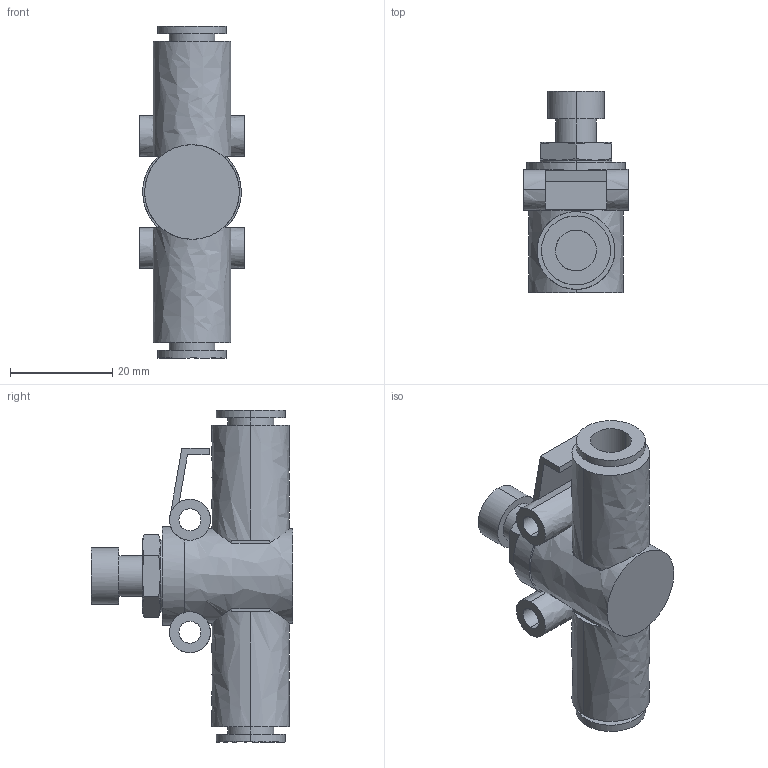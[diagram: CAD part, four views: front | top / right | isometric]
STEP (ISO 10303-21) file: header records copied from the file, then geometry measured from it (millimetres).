
FILE_DESCRIPTION (( 'STEP AP214' ), '1' );
FILE_NAME ('AS3002F-08.STEP', '2023-03-08T10:10:03', ( 'Windows User' ), ( 'P R C' ), 'SwSTEP 2.0', 'SolidWorks 2019', '' );
FILE_SCHEMA (( 'AUTOMOTIVE_DESIGN' ));
Length unit declared in the file: millimetre
Products named in the file (1): AS3002F-08
Bounding box: 20.5 x 39.4 x 65 mm (x, y, z)
Volume: 16323.8 mm3; surface area: 7987.3 mm2
Topology: 1 solids, 1 shells, 79 faces, 194 edges, 128 vertices
Faces by surface type: plane 41, bspline 38
Entity records: 3660 total; most frequent: CARTESIAN_POINT 2332, ORIENTED_EDGE 388, EDGE_CURVE 194, B_SPLINE_CURVE_WITH_KNOTS 146, VERTEX_POINT 128, EDGE_LOOP 94, DIRECTION 84, FACE_OUTER_BOUND 79
